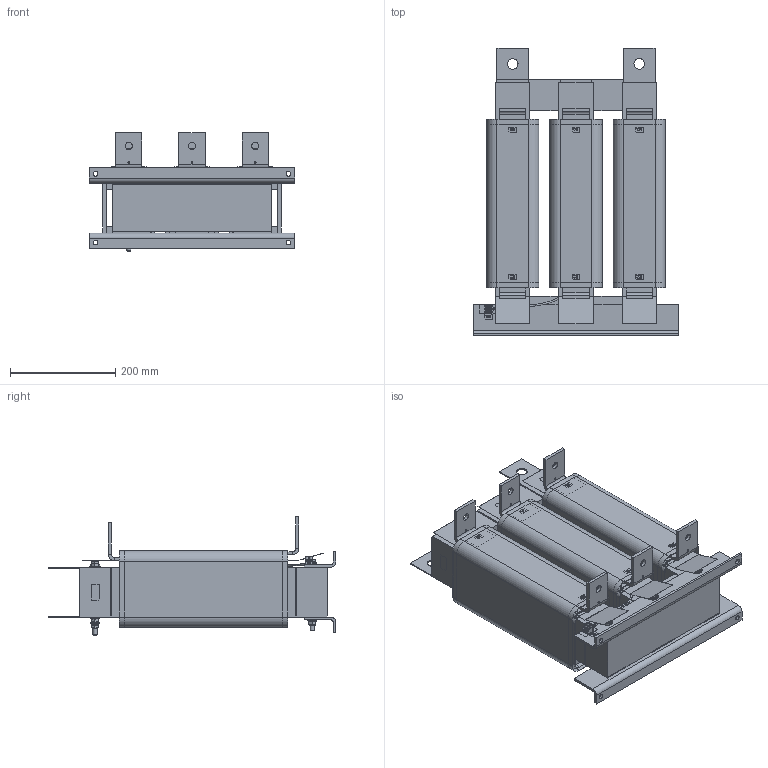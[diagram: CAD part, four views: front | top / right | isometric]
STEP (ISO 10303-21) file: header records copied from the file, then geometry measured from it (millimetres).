
FILE_DESCRIPTION(/* description */ ('raw material description'),/* implementation_level */ '2;1');
FILE_NAME(/* name */ 'C:\Users\Erika.Jenzer\Desktop\Neuer Ordner\FN5060HV-660-99.stp',/* time_stamp */ '2019-11-18T15:27:54+01:00',/* author */ ('erika.jenzer'),/* organization */ ('Schaffner EMV AG'),/* preprocessor_version */ 'ST-DEVELOPER v16.5',/* originating_system */ 'Autodesk Inventor 2017',/* authorisation */ '');
FILE_SCHEMA (('AUTOMOTIVE_DESIGN { 1 0 10303 214 3 1 1 }'));
Products named in the file (1): FN5060HV-660-99
Bounding box: 390 x 546.07 x 224.54 mm (x, y, z)
Volume: 15026060.3 mm3; surface area: 1775653 mm2
Topology: 1 solids, 15 shells, 1855 faces, 4895 edges, 3203 vertices
Faces by surface type: plane 1258, cylinder 399, cone 92, bspline 87, torus 18, sphere 1
Full cylindrical faces by diameter (mm): 0.01 x2, 1 x2, 2 x2, 2.5 x1, 2.8 x11, 3 x1, 3.4 x4, 8 x13, 8.2 x6, 8.4 x13, 9 x4, 9.9 x5, 10.5 x3, 11 x10, 11.4 x6, 13 x1, 13.5 x6, 16 x11, 18 x5, 20 x4
Entity records: 60729 total; most frequent: CARTESIAN_POINT 13715, ORIENTED_EDGE 9342, DIRECTION 8936, EDGE_CURVE 4664, LINE 3288, VECTOR 3288, VERTEX_POINT 3142, AXIS2_PLACEMENT_3D 2824
